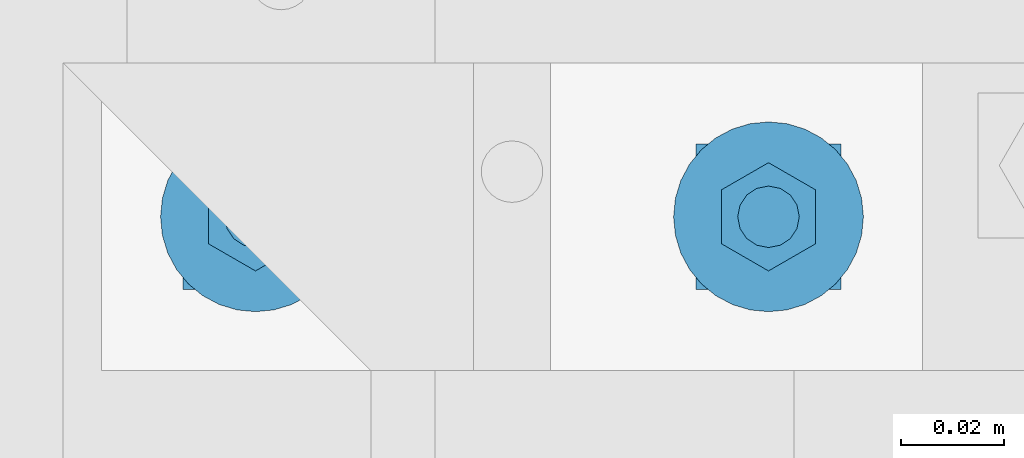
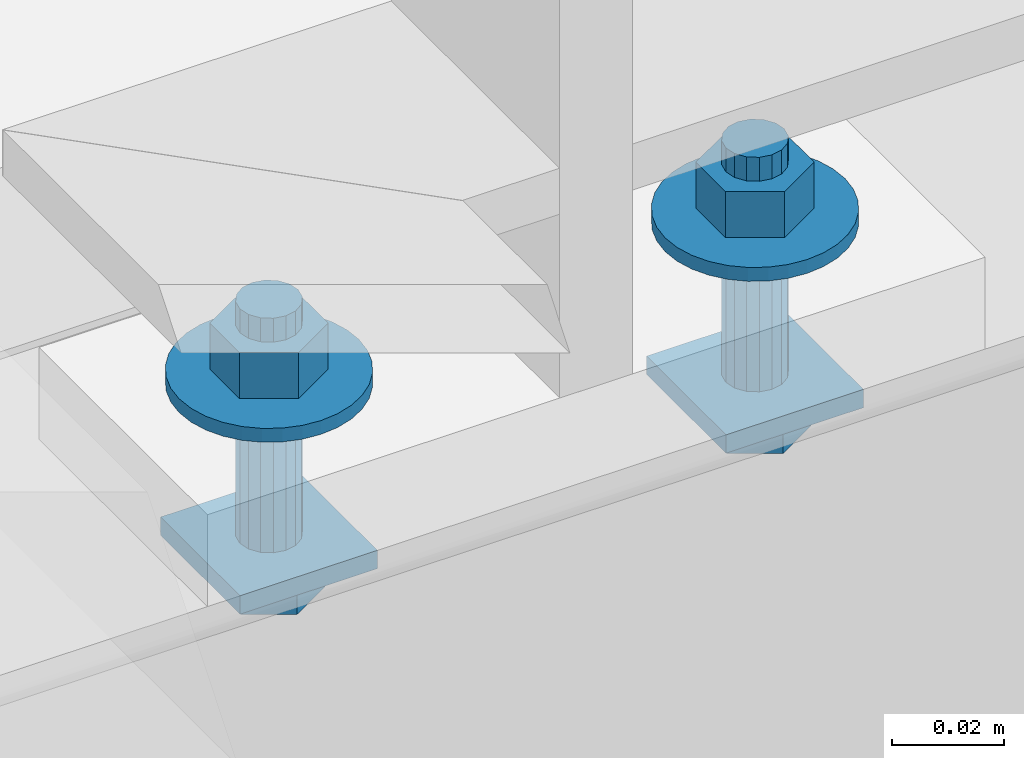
# One storey, part 294 of 825: 1 mechanical fastener.
"""IFC2X3 building model written with IfcOpenShell, lengths in millimetres."""

from ifc_helpers import new_model, entity, si_unit, converted_unit, origin_with_axes, place, context, project, spatial, faceted_brep, element, save


model = new_model("IFC2X3")

# Units and contexts
model_context = context("Model", 3, precision=1e-09, world=origin_with_axes())
ifc_project = project(units=[si_unit("LENGTHUNIT", "METRE", prefix="MILLI"), si_unit("AREAUNIT", "SQUARE_METRE"), si_unit("VOLUMEUNIT", "CUBIC_METRE"), converted_unit("PLANEANGLEUNIT", "DEGREE", entity("IfcPlaneAngleMeasure", 0.01745329), si_unit("PLANEANGLEUNIT", "RADIAN"), dimensions=[0, 0, 0, 0, 0, 0, 0])], contexts=[model_context])

# Site, building, storey
site_placement = place(None, origin_with_axes())
site = spatial("IfcSite", under=ifc_project, at=site_placement, Name="Cnopf'sche Kinderklinik", CompositionType="ELEMENT")
building_placement = place(site_placement, origin_with_axes())
building = spatial("IfcBuilding", under=site, at=building_placement, Name="Struktur 1", CompositionType="ELEMENT")
storey_placement = place(building_placement, origin_with_axes())
storey = spatial("IfcBuildingStorey", under=building, at=storey_placement, Name="Default Storey", CompositionType="ELEMENT", Elevation=0.0)

# Mechanical fastener
mechanical_fastener_placement = place(None, origin_with_axes())
element("IfcMechanicalFastener", 1, at=mechanical_fastener_placement, inside=storey, ObjectType="Bolt#500", NominalDiameter=12.0, NominalLength=55.0, context=model_context, shape_type="Brep", body=[
    faceted_brep([(4765.855538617, 6077.59483628, 9935.197311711), (4765.855538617, 6077.59483628, 9939.197311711), (4737.571267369, 6077.59483628, 9939.197311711), (4737.571267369, 6077.59483628, 9935.197311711), (4737.571267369, 6105.879107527, 9939.197311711), (4737.571267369, 6105.879107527, 9935.197311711), (4765.855538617, 6105.879107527, 9939.197311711), (4765.855538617, 6105.879107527, 9935.197311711)], [[[0, 1, 2, 3]], [[3, 2, 4, 5]], [[5, 4, 6, 7]], [[7, 6, 1, 0]], [[3, 5, 7, 0]], [[2, 1, 6, 4]]]),
    faceted_brep([(4665.855538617, 6077.59483628, 9935.197311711), (4665.855538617, 6077.59483628, 9939.197311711), (4637.571267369, 6077.59483628, 9939.197311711), (4637.571267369, 6077.59483628, 9935.197311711), (4637.571267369, 6105.879107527, 9939.197311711), (4637.571267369, 6105.879107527, 9935.197311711), (4665.855538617, 6105.879107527, 9939.197311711), (4665.855538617, 6105.879107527, 9935.197311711)], [[[0, 1, 2, 3]], [[3, 2, 4, 5]], [[5, 4, 6, 7]], [[7, 6, 1, 0]], [[3, 5, 7, 0]], [[2, 1, 6, 4]]]),
    faceted_brep([(4760.386647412, 6086.729471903, 9927.697311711), (4760.386647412, 6086.729471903, 9935.197311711), (4751.713402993, 6081.721971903, 9935.197311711), (4751.713402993, 6081.721971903, 9927.697311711), (4743.040158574, 6086.729471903, 9935.197311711), (4743.040158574, 6086.729471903, 9927.697311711), (4743.040158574, 6096.744471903, 9935.197311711), (4743.040158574, 6096.744471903, 9927.697311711), (4751.713402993, 6101.751971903, 9935.197311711), (4751.713402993, 6101.751971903, 9927.697311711), (4760.386647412, 6096.744471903, 9935.197311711), (4760.386647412, 6096.744471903, 9927.697311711)], [[[0, 1, 2, 3]], [[3, 2, 4, 5]], [[5, 4, 6, 7]], [[7, 6, 8, 9]], [[9, 8, 10, 11]], [[11, 10, 1, 0]], [[3, 5, 7, 9, 11, 0]], [[2, 1, 10, 8, 6, 4]]]),
    faceted_brep([(4660.386647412, 6086.729471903, 9927.697311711), (4660.386647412, 6086.729471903, 9935.197311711), (4651.713402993, 6081.721971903, 9935.197311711), (4651.713402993, 6081.721971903, 9927.697311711), (4643.040158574, 6086.729471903, 9935.197311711), (4643.040158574, 6086.729471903, 9927.697311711), (4643.040158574, 6096.744471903, 9935.197311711), (4643.040158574, 6096.744471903, 9927.697311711), (4651.713402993, 6101.751971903, 9935.197311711), (4651.713402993, 6101.751971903, 9927.697311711), (4660.386647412, 6096.744471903, 9935.197311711), (4660.386647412, 6096.744471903, 9927.697311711)], [[[0, 1, 2, 3]], [[3, 2, 4, 5]], [[5, 4, 6, 7]], [[7, 6, 8, 9]], [[9, 8, 10, 11]], [[11, 10, 1, 0]], [[3, 5, 7, 9, 11, 0]], [[2, 1, 10, 8, 6, 4]]]),
    faceted_brep([(4745.713402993, 6091.736971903, 9972.0), (4745.713402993, 6091.736971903, 9939.197311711), (4746.170125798, 6089.440871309, 9939.197311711), (4746.170125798, 6089.440871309, 9972.0), (4747.470762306, 6087.494331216, 9939.197311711), (4747.470762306, 6087.494331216, 9972.0), (4749.417302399, 6086.193694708, 9939.197311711), (4749.417302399, 6086.193694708, 9972.0), (4751.713402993, 6085.736971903, 9939.197311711), (4751.713402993, 6085.736971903, 9972.0), (4754.009503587, 6086.193694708, 9939.197311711), (4754.009503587, 6086.193694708, 9972.0), (4755.95604368, 6087.494331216, 9939.197311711), (4755.95604368, 6087.494331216, 9972.0), (4757.256680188, 6089.440871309, 9939.197311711), (4757.256680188, 6089.440871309, 9972.0), (4757.713402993, 6091.736971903, 9939.197311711), (4757.713402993, 6091.736971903, 9972.0), (4757.256680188, 6094.033072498, 9939.197311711), (4757.256680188, 6094.033072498, 9972.0), (4755.95604368, 6095.97961259, 9939.197311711), (4755.95604368, 6095.97961259, 9972.0), (4754.009503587, 6097.280249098, 9939.197311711), (4754.009503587, 6097.280249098, 9972.0), (4751.713402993, 6097.736971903, 9939.197311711), (4751.713402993, 6097.736971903, 9972.0), (4749.417302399, 6097.280249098, 9939.197311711), (4749.417302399, 6097.280249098, 9972.0), (4747.470762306, 6095.97961259, 9939.197311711), (4747.470762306, 6095.97961259, 9972.0), (4746.170125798, 6094.033072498, 9939.197311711), (4746.170125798, 6094.033072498, 9972.0)], [[[0, 1, 2, 3]], [[3, 2, 4, 5]], [[5, 4, 6, 7]], [[7, 6, 8, 9]], [[9, 8, 10, 11]], [[11, 10, 12, 13]], [[13, 12, 14, 15]], [[15, 14, 16, 17]], [[17, 16, 18, 19]], [[19, 18, 20, 21]], [[21, 20, 22, 23]], [[23, 22, 24, 25]], [[25, 24, 26, 27]], [[27, 26, 28, 29]], [[29, 28, 30, 31]], [[31, 30, 1, 0]], [[2, 1, 30, 28, 26, 24, 22, 20, 18, 16, 14, 12, 10, 8, 6, 4]], [[31, 0, 3, 5, 7, 9, 11, 13, 15, 17, 19, 21, 23, 25, 27, 29]]]),
    faceted_brep([(4645.713402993, 6091.736971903, 9972.0), (4645.713402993, 6091.736971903, 9939.197311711), (4646.170125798, 6089.440871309, 9939.197311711), (4646.170125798, 6089.440871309, 9972.0), (4647.470762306, 6087.494331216, 9939.197311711), (4647.470762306, 6087.494331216, 9972.0), (4649.417302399, 6086.193694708, 9939.197311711), (4649.417302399, 6086.193694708, 9972.0), (4651.713402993, 6085.736971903, 9939.197311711), (4651.713402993, 6085.736971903, 9972.0), (4654.009503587, 6086.193694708, 9939.197311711), (4654.009503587, 6086.193694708, 9972.0), (4655.95604368, 6087.494331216, 9939.197311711), (4655.95604368, 6087.494331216, 9972.0), (4657.256680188, 6089.440871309, 9939.197311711), (4657.256680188, 6089.440871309, 9972.0), (4657.713402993, 6091.736971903, 9939.197311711), (4657.713402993, 6091.736971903, 9972.0), (4657.256680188, 6094.033072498, 9939.197311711), (4657.256680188, 6094.033072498, 9972.0), (4655.95604368, 6095.97961259, 9939.197311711), (4655.95604368, 6095.97961259, 9972.0), (4654.009503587, 6097.280249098, 9939.197311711), (4654.009503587, 6097.280249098, 9972.0), (4651.713402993, 6097.736971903, 9939.197311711), (4651.713402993, 6097.736971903, 9972.0), (4649.417302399, 6097.280249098, 9939.197311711), (4649.417302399, 6097.280249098, 9972.0), (4647.470762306, 6095.97961259, 9939.197311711), (4647.470762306, 6095.97961259, 9972.0), (4646.170125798, 6094.033072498, 9939.197311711), (4646.170125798, 6094.033072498, 9972.0)], [[[0, 1, 2, 3]], [[3, 2, 4, 5]], [[5, 4, 6, 7]], [[7, 6, 8, 9]], [[9, 8, 10, 11]], [[11, 10, 12, 13]], [[13, 12, 14, 15]], [[15, 14, 16, 17]], [[17, 16, 18, 19]], [[19, 18, 20, 21]], [[21, 20, 22, 23]], [[23, 22, 24, 25]], [[25, 24, 26, 27]], [[27, 26, 28, 29]], [[29, 28, 30, 31]], [[31, 30, 1, 0]], [[2, 1, 30, 28, 26, 24, 22, 20, 18, 16, 14, 12, 10, 8, 6, 4]], [[31, 0, 3, 5, 7, 9, 11, 13, 15, 17, 19, 21, 23, 25, 27, 29]]]),
    faceted_brep([(4733.213402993, 6091.736971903, 9975.0), (4733.213402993, 6091.736971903, 9972.0), (4733.568875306, 6088.127800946, 9972.0), (4733.568875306, 6088.127800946, 9975.0), (4734.621631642, 6084.657328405, 9972.0), (4734.621631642, 6084.657328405, 9975.0), (4736.331215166, 6081.458922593, 9972.0), (4736.331215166, 6081.458922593, 9975.0), (4738.631927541, 6078.655496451, 9972.0), (4738.631927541, 6078.655496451, 9975.0), (4741.435353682, 6076.354784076, 9972.0), (4741.435353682, 6076.354784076, 9975.0), (4744.633759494, 6074.645200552, 9972.0), (4744.633759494, 6074.645200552, 9975.0), (4748.104232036, 6073.592444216, 9972.0), (4748.104232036, 6073.592444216, 9975.0), (4751.713402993, 6073.236971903, 9972.0), (4751.713402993, 6073.236971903, 9975.0), (4755.32257395, 6073.592444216, 9972.0), (4755.32257395, 6073.592444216, 9975.0), (4758.793046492, 6074.645200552, 9972.0), (4758.793046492, 6074.645200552, 9975.0), (4761.991452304, 6076.354784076, 9972.0), (4761.991452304, 6076.354784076, 9975.0), (4764.794878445, 6078.655496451, 9972.0), (4764.794878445, 6078.655496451, 9975.0), (4767.095590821, 6081.458922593, 9972.0), (4767.095590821, 6081.458922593, 9975.0), (4768.805174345, 6084.657328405, 9972.0), (4768.805174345, 6084.657328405, 9975.0), (4769.857930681, 6088.127800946, 9972.0), (4769.857930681, 6088.127800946, 9975.0), (4770.213402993, 6091.736971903, 9972.0), (4770.213402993, 6091.736971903, 9975.0), (4769.857930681, 6095.346142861, 9972.0), (4769.857930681, 6095.346142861, 9975.0), (4768.805174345, 6098.816615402, 9972.0), (4768.805174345, 6098.816615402, 9975.0), (4767.095590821, 6102.015021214, 9972.0), (4767.095590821, 6102.015021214, 9975.0), (4764.794878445, 6104.818447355, 9972.0), (4764.794878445, 6104.818447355, 9975.0), (4761.991452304, 6107.119159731, 9972.0), (4761.991452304, 6107.119159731, 9975.0), (4758.793046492, 6108.828743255, 9972.0), (4758.793046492, 6108.828743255, 9975.0), (4755.32257395, 6109.881499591, 9972.0), (4755.32257395, 6109.881499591, 9975.0), (4751.713402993, 6110.236971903, 9972.0), (4751.713402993, 6110.236971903, 9975.0), (4748.104232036, 6109.881499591, 9972.0), (4748.104232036, 6109.881499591, 9975.0), (4744.633759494, 6108.828743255, 9972.0), (4744.633759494, 6108.828743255, 9975.0), (4741.435353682, 6107.119159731, 9972.0), (4741.435353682, 6107.119159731, 9975.0), (4738.631927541, 6104.818447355, 9972.0), (4738.631927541, 6104.818447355, 9975.0), (4736.331215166, 6102.015021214, 9972.0), (4736.331215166, 6102.015021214, 9975.0), (4734.621631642, 6098.816615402, 9972.0), (4734.621631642, 6098.816615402, 9975.0), (4733.568875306, 6095.346142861, 9972.0), (4733.568875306, 6095.346142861, 9975.0)], [[[0, 1, 2, 3]], [[3, 2, 4, 5]], [[5, 4, 6, 7]], [[7, 6, 8, 9]], [[9, 8, 10, 11]], [[11, 10, 12, 13]], [[13, 12, 14, 15]], [[15, 14, 16, 17]], [[17, 16, 18, 19]], [[19, 18, 20, 21]], [[21, 20, 22, 23]], [[23, 22, 24, 25]], [[25, 24, 26, 27]], [[27, 26, 28, 29]], [[29, 28, 30, 31]], [[31, 30, 32, 33]], [[33, 32, 34, 35]], [[35, 34, 36, 37]], [[37, 36, 38, 39]], [[39, 38, 40, 41]], [[41, 40, 42, 43]], [[43, 42, 44, 45]], [[45, 44, 46, 47]], [[47, 46, 48, 49]], [[49, 48, 50, 51]], [[51, 50, 52, 53]], [[53, 52, 54, 55]], [[55, 54, 56, 57]], [[57, 56, 58, 59]], [[59, 58, 60, 61]], [[61, 60, 62, 63]], [[63, 62, 1, 0]], [[2, 1, 62, 60, 58, 56, 54, 52, 50, 48, 46, 44, 42, 40, 38, 36, 34, 32, 30, 28, 26, 24, 22, 20, 18, 16, 14, 12, 10, 8, 6, 4]], [[63, 0, 3, 5, 7, 9, 11, 13, 15, 17, 19, 21, 23, 25, 27, 29, 31, 33, 35, 37, 39, 41, 43, 45, 47, 49, 51, 53, 55, 57, 59, 61]]]),
    faceted_brep([(4633.213402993, 6091.736971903, 9975.0), (4633.213402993, 6091.736971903, 9972.0), (4633.568875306, 6088.127800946, 9972.0), (4633.568875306, 6088.127800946, 9975.0), (4634.621631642, 6084.657328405, 9972.0), (4634.621631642, 6084.657328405, 9975.0), (4636.331215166, 6081.458922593, 9972.0), (4636.331215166, 6081.458922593, 9975.0), (4638.631927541, 6078.655496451, 9972.0), (4638.631927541, 6078.655496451, 9975.0), (4641.435353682, 6076.354784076, 9972.0), (4641.435353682, 6076.354784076, 9975.0), (4644.633759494, 6074.645200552, 9972.0), (4644.633759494, 6074.645200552, 9975.0), (4648.104232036, 6073.592444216, 9972.0), (4648.104232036, 6073.592444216, 9975.0), (4651.713402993, 6073.236971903, 9972.0), (4651.713402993, 6073.236971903, 9975.0), (4655.32257395, 6073.592444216, 9972.0), (4655.32257395, 6073.592444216, 9975.0), (4658.793046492, 6074.645200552, 9972.0), (4658.793046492, 6074.645200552, 9975.0), (4661.991452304, 6076.354784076, 9972.0), (4661.991452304, 6076.354784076, 9975.0), (4664.794878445, 6078.655496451, 9972.0), (4664.794878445, 6078.655496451, 9975.0), (4667.095590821, 6081.458922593, 9972.0), (4667.095590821, 6081.458922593, 9975.0), (4668.805174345, 6084.657328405, 9972.0), (4668.805174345, 6084.657328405, 9975.0), (4669.857930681, 6088.127800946, 9972.0), (4669.857930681, 6088.127800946, 9975.0), (4670.213402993, 6091.736971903, 9972.0), (4670.213402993, 6091.736971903, 9975.0), (4669.857930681, 6095.346142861, 9972.0), (4669.857930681, 6095.346142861, 9975.0), (4668.805174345, 6098.816615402, 9972.0), (4668.805174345, 6098.816615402, 9975.0), (4667.095590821, 6102.015021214, 9972.0), (4667.095590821, 6102.015021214, 9975.0), (4664.794878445, 6104.818447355, 9972.0), (4664.794878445, 6104.818447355, 9975.0), (4661.991452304, 6107.119159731, 9972.0), (4661.991452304, 6107.119159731, 9975.0), (4658.793046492, 6108.828743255, 9972.0), (4658.793046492, 6108.828743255, 9975.0), (4655.32257395, 6109.881499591, 9972.0), (4655.32257395, 6109.881499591, 9975.0), (4651.713402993, 6110.236971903, 9972.0), (4651.713402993, 6110.236971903, 9975.0), (4648.104232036, 6109.881499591, 9972.0), (4648.104232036, 6109.881499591, 9975.0), (4644.633759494, 6108.828743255, 9972.0), (4644.633759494, 6108.828743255, 9975.0), (4641.435353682, 6107.119159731, 9972.0), (4641.435353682, 6107.119159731, 9975.0), (4638.631927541, 6104.818447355, 9972.0), (4638.631927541, 6104.818447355, 9975.0), (4636.331215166, 6102.015021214, 9972.0), (4636.331215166, 6102.015021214, 9975.0), (4634.621631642, 6098.816615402, 9972.0), (4634.621631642, 6098.816615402, 9975.0), (4633.568875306, 6095.346142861, 9972.0), (4633.568875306, 6095.346142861, 9975.0)], [[[0, 1, 2, 3]], [[3, 2, 4, 5]], [[5, 4, 6, 7]], [[7, 6, 8, 9]], [[9, 8, 10, 11]], [[11, 10, 12, 13]], [[13, 12, 14, 15]], [[15, 14, 16, 17]], [[17, 16, 18, 19]], [[19, 18, 20, 21]], [[21, 20, 22, 23]], [[23, 22, 24, 25]], [[25, 24, 26, 27]], [[27, 26, 28, 29]], [[29, 28, 30, 31]], [[31, 30, 32, 33]], [[33, 32, 34, 35]], [[35, 34, 36, 37]], [[37, 36, 38, 39]], [[39, 38, 40, 41]], [[41, 40, 42, 43]], [[43, 42, 44, 45]], [[45, 44, 46, 47]], [[47, 46, 48, 49]], [[49, 48, 50, 51]], [[51, 50, 52, 53]], [[53, 52, 54, 55]], [[55, 54, 56, 57]], [[57, 56, 58, 59]], [[59, 58, 60, 61]], [[61, 60, 62, 63]], [[63, 62, 1, 0]], [[2, 1, 62, 60, 58, 56, 54, 52, 50, 48, 46, 44, 42, 40, 38, 36, 34, 32, 30, 28, 26, 24, 22, 20, 18, 16, 14, 12, 10, 8, 6, 4]], [[63, 0, 3, 5, 7, 9, 11, 13, 15, 17, 19, 21, 23, 25, 27, 29, 31, 33, 35, 37, 39, 41, 43, 45, 47, 49, 51, 53, 55, 57, 59, 61]]]),
    faceted_brep([(4760.849971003, 6086.461971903, 9975.0), (4760.849971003, 6086.461971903, 9985.0), (4751.713402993, 6081.186971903, 9985.0), (4751.713402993, 6081.186971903, 9975.0), (4742.576834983, 6086.461971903, 9985.0), (4742.576834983, 6086.461971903, 9975.0), (4742.576834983, 6097.011971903, 9985.0), (4742.576834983, 6097.011971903, 9975.0), (4751.713402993, 6102.286971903, 9985.0), (4751.713402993, 6102.286971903, 9975.0), (4760.849971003, 6097.011971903, 9985.0), (4760.849971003, 6097.011971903, 9975.0)], [[[0, 1, 2, 3]], [[3, 2, 4, 5]], [[5, 4, 6, 7]], [[7, 6, 8, 9]], [[9, 8, 10, 11]], [[11, 10, 1, 0]], [[3, 5, 7, 9, 11, 0]], [[2, 1, 10, 8, 6, 4]]]),
    faceted_brep([(4660.849971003, 6086.461971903, 9975.0), (4660.849971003, 6086.461971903, 9985.0), (4651.713402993, 6081.186971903, 9985.0), (4651.713402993, 6081.186971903, 9975.0), (4642.576834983, 6086.461971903, 9985.0), (4642.576834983, 6086.461971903, 9975.0), (4642.576834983, 6097.011971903, 9985.0), (4642.576834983, 6097.011971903, 9975.0), (4651.713402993, 6102.286971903, 9985.0), (4651.713402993, 6102.286971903, 9975.0), (4660.849971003, 6097.011971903, 9985.0), (4660.849971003, 6097.011971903, 9975.0)], [[[0, 1, 2, 3]], [[3, 2, 4, 5]], [[5, 4, 6, 7]], [[7, 6, 8, 9]], [[9, 8, 10, 11]], [[11, 10, 1, 0]], [[3, 5, 7, 9, 11, 0]], [[2, 1, 10, 8, 6, 4]]]),
    faceted_brep([(4745.713402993, 6091.736971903, 9990.197311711), (4745.713402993, 6091.736971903, 9985.0), (4746.170125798, 6089.440871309, 9985.0), (4746.170125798, 6089.440871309, 9990.197311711), (4747.470762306, 6087.494331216, 9985.0), (4747.470762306, 6087.494331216, 9990.197311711), (4749.417302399, 6086.193694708, 9985.0), (4749.417302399, 6086.193694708, 9990.197311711), (4751.713402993, 6085.736971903, 9985.0), (4751.713402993, 6085.736971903, 9990.197311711), (4754.009503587, 6086.193694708, 9985.0), (4754.009503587, 6086.193694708, 9990.197311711), (4755.95604368, 6087.494331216, 9985.0), (4755.95604368, 6087.494331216, 9990.197311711), (4757.256680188, 6089.440871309, 9985.0), (4757.256680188, 6089.440871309, 9990.197311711), (4757.713402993, 6091.736971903, 9985.0), (4757.713402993, 6091.736971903, 9990.197311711), (4757.256680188, 6094.033072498, 9985.0), (4757.256680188, 6094.033072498, 9990.197311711), (4755.95604368, 6095.97961259, 9985.0), (4755.95604368, 6095.97961259, 9990.197311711), (4754.009503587, 6097.280249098, 9985.0), (4754.009503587, 6097.280249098, 9990.197311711), (4751.713402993, 6097.736971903, 9985.0), (4751.713402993, 6097.736971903, 9990.197311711), (4749.417302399, 6097.280249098, 9985.0), (4749.417302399, 6097.280249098, 9990.197311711), (4747.470762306, 6095.97961259, 9985.0), (4747.470762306, 6095.97961259, 9990.197311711), (4746.170125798, 6094.033072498, 9985.0), (4746.170125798, 6094.033072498, 9990.197311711)], [[[0, 1, 2, 3]], [[3, 2, 4, 5]], [[5, 4, 6, 7]], [[7, 6, 8, 9]], [[9, 8, 10, 11]], [[11, 10, 12, 13]], [[13, 12, 14, 15]], [[15, 14, 16, 17]], [[17, 16, 18, 19]], [[19, 18, 20, 21]], [[21, 20, 22, 23]], [[23, 22, 24, 25]], [[25, 24, 26, 27]], [[27, 26, 28, 29]], [[29, 28, 30, 31]], [[31, 30, 1, 0]], [[2, 1, 30, 28, 26, 24, 22, 20, 18, 16, 14, 12, 10, 8, 6, 4]], [[31, 0, 3, 5, 7, 9, 11, 13, 15, 17, 19, 21, 23, 25, 27, 29]]]),
    faceted_brep([(4645.713402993, 6091.736971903, 9990.197311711), (4645.713402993, 6091.736971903, 9985.0), (4646.170125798, 6089.440871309, 9985.0), (4646.170125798, 6089.440871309, 9990.197311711), (4647.470762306, 6087.494331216, 9985.0), (4647.470762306, 6087.494331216, 9990.197311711), (4649.417302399, 6086.193694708, 9985.0), (4649.417302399, 6086.193694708, 9990.197311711), (4651.713402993, 6085.736971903, 9985.0), (4651.713402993, 6085.736971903, 9990.197311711), (4654.009503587, 6086.193694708, 9985.0), (4654.009503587, 6086.193694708, 9990.197311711), (4655.95604368, 6087.494331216, 9985.0), (4655.95604368, 6087.494331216, 9990.197311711), (4657.256680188, 6089.440871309, 9985.0), (4657.256680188, 6089.440871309, 9990.197311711), (4657.713402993, 6091.736971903, 9985.0), (4657.713402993, 6091.736971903, 9990.197311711), (4657.256680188, 6094.033072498, 9985.0), (4657.256680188, 6094.033072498, 9990.197311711), (4655.95604368, 6095.97961259, 9985.0), (4655.95604368, 6095.97961259, 9990.197311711), (4654.009503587, 6097.280249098, 9985.0), (4654.009503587, 6097.280249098, 9990.197311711), (4651.713402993, 6097.736971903, 9985.0), (4651.713402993, 6097.736971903, 9990.197311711), (4649.417302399, 6097.280249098, 9985.0), (4649.417302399, 6097.280249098, 9990.197311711), (4647.470762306, 6095.97961259, 9985.0), (4647.470762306, 6095.97961259, 9990.197311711), (4646.170125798, 6094.033072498, 9985.0), (4646.170125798, 6094.033072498, 9990.197311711)], [[[0, 1, 2, 3]], [[3, 2, 4, 5]], [[5, 4, 6, 7]], [[7, 6, 8, 9]], [[9, 8, 10, 11]], [[11, 10, 12, 13]], [[13, 12, 14, 15]], [[15, 14, 16, 17]], [[17, 16, 18, 19]], [[19, 18, 20, 21]], [[21, 20, 22, 23]], [[23, 22, 24, 25]], [[25, 24, 26, 27]], [[27, 26, 28, 29]], [[29, 28, 30, 31]], [[31, 30, 1, 0]], [[2, 1, 30, 28, 26, 24, 22, 20, 18, 16, 14, 12, 10, 8, 6, 4]], [[31, 0, 3, 5, 7, 9, 11, 13, 15, 17, 19, 21, 23, 25, 27, 29]]]),
])

save(model, "model.ifc")
